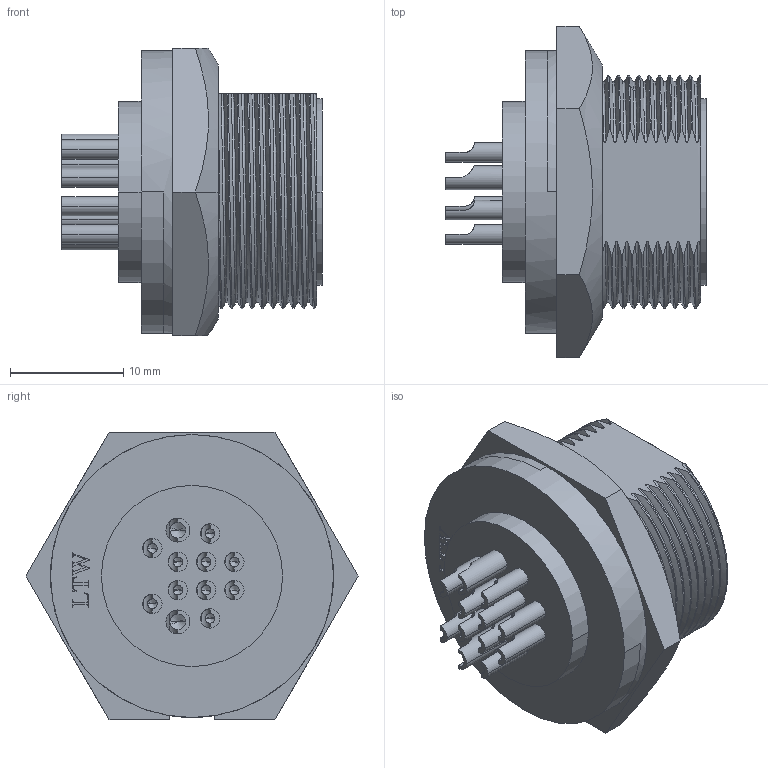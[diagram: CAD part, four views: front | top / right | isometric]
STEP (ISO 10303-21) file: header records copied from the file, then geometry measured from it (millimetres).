
FILE_DESCRIPTION((''),'2;1');
FILE_NAME('CDU-12PMFS-SC7001_ASM','2021-08-20T',('L100003'),(''),'PRO/ENGINEER BY PARAMETRIC TECHNOLOGY CORPORATION, 2017170','PRO/ENGINEER BY PARAMETRIC TECHNOLOGY CORPORATION, 2017170','');
FILE_SCHEMA(('CONFIG_CONTROL_DESIGN'));
Length unit declared in the file: millimetre
Products named in the file (2): _CDU-12PMFS-SC7001; CDU-12PMFS-SC7001_ASM
Assembly tree (1 placements, depth 2):
  CDU-12PMFS-SC7001_ASM
    _CDU-12PMFS-SC7001
Bounding box: 23 x 29.33 x 25.4 mm (x, y, z)
Volume: 6017.2 mm3; surface area: 4152 mm2
Topology: 1 solids, 1 shells, 441 faces, 1268 edges, 821 vertices
Faces by surface type: plane 171, cylinder 97, extrusion 76, bspline 66, cone 31
Entity records: 25696 total; most frequent: CARTESIAN_POINT 11748, ORIENTED_EDGE 2488, DIRECTION 1649, EDGE_CURVE 1244, VERTEX_POINT 821, VECTOR 707, LINE 631, B_SPLINE_CURVE_WITH_KNOTS 520
